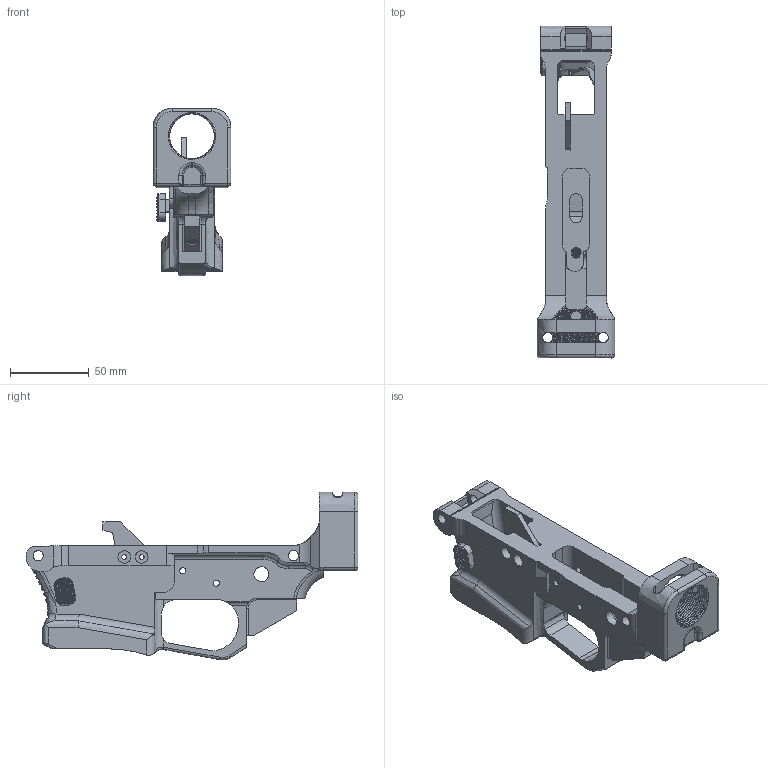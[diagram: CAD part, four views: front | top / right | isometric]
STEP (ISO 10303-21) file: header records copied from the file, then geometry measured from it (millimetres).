
FILE_DESCRIPTION(/* description */ (''),/* implementation_level */ '2;1');
FILE_NAME(/* name */ 'PCC 1.0/STEP/Lowers/AR-9 Glock - Final.step',/* time_stamp */ '2022-04-06T16:39:00-04:00',/* author */ (''),/* organization */ (''),/* preprocessor_version */ 'ST-DEVELOPER v18.1',/* originating_system */ 'Autodesk Translation Framework v10.14.0.1471',/* authorisation */ '');
FILE_SCHEMA (('AUTOMOTIVE_DESIGN { 1 0 10303 214 3 1 1 }'));
Products named in the file (5): AR-9 Glock - Final; Mag Catch Button; Mag Catch Long; Frame (3); Ejector (4)
Assembly tree (4 placements, depth 2):
  AR-9 Glock - Final
    Mag Catch Button
    Mag Catch Long
    Frame (3)
    Ejector (4)
Bounding box: 49.27 x 210.48 x 106.26 mm (x, y, z)
Volume: 219604.8 mm3; surface area: 69451.5 mm2
Topology: 4 solids, 4 shells, 792 faces, 2176 edges, 1379 vertices
Faces by surface type: cylinder 300, plane 234, bspline 232, torus 16, cone 6, sphere 4
Full cylindrical faces by diameter (mm): 3 x6, 3.175 x1, 3.962 x4, 5.172 x21, 6.35 x20, 6.5 x6, 6.75 x1, 8 x4, 9.525 x2, 28.47 x9, 30.043 x9
Entity records: 48820 total; most frequent: CARTESIAN_POINT 30611, ORIENTED_EDGE 4318, DIRECTION 2932, EDGE_CURVE 2159, VERTEX_POINT 1375, AXIS2_PLACEMENT_3D 1049, EDGE_LOOP 838, B_SPLINE_CURVE_WITH_KNOTS 836
